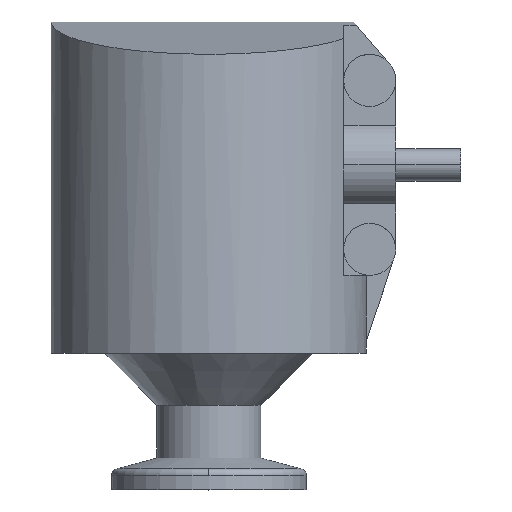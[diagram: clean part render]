
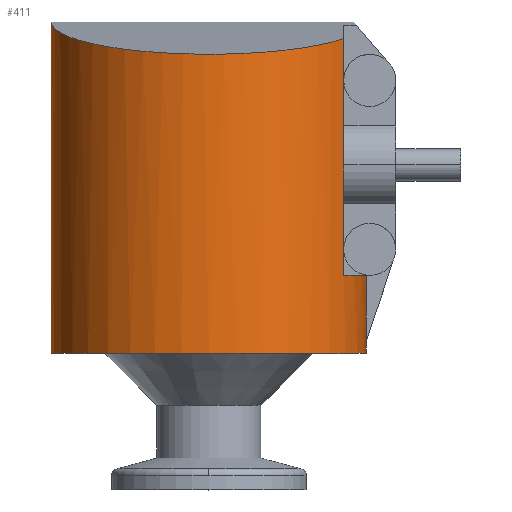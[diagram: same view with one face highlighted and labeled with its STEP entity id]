
A CAD part, top view. The second image highlights one B-rep face of the part: STEP entity #411.
In plain terms, the highlighted cylindrical face has radius 24.25 mm (diameter 48.5 mm), a partial arc.
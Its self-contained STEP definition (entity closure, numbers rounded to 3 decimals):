
#336=CARTESIAN_POINT('',(0.0,46.5,0.0));
#337=DIRECTION('',(0.0,1.0,0.0));
#338=DIRECTION('',(-1.0,0.0,0.0));
#339=AXIS2_PLACEMENT_3D('',#336,#337,#338);
#340=CYLINDRICAL_SURFACE('',#339,24.25);
#341=CARTESIAN_POINT('',(-24.25,21.,0.0));
#342=VERTEX_POINT('',#341);
#343=CARTESIAN_POINT('',(-24.25,72.,0.0));
#344=VERTEX_POINT('',#343);
#345=CARTESIAN_POINT('',(-24.25,21.,0.0));
#346=DIRECTION('',(0.0,1.0,0.0));
#347=VECTOR('',#346,51.);
#348=LINE('',#345,#347);
#349=EDGE_CURVE('',#342,#344,#348,.T.);
#350=ORIENTED_EDGE('',*,*,#349,.F.);
#351=CARTESIAN_POINT('',(24.25,21.,0.));
#352=VERTEX_POINT('',#351);
#353=CARTESIAN_POINT('',(0.0,21.0,0.0));
#354=DIRECTION('',(0.0,1.0,0.0));
#355=DIRECTION('',(-1.0,0.0,0.0));
#356=AXIS2_PLACEMENT_3D('',#353,#354,#355);
#357=CIRCLE('',#356,24.25);
#358=EDGE_CURVE('',#342,#352,#357,.T.);
#359=ORIENTED_EDGE('',*,*,#358,.T.);
#360=CARTESIAN_POINT('',(24.25,23.,0.0));
#361=VERTEX_POINT('',#360);
#362=CARTESIAN_POINT('',(24.25,23.,0.0));
#363=DIRECTION('',(0.0,-1.0,0.0));
#364=VECTOR('',#363,2.);
#365=LINE('',#362,#364);
#366=EDGE_CURVE('',#361,#352,#365,.T.);
#367=ORIENTED_EDGE('',*,*,#366,.F.);
#368=CARTESIAN_POINT('',(24.25,33.0,0.0));
#369=VERTEX_POINT('',#368);
#370=CARTESIAN_POINT('',(24.25,23.,0.0));
#371=DIRECTION('',(0.0,1.0,0.0));
#372=VECTOR('',#371,10.);
#373=LINE('',#370,#372);
#374=EDGE_CURVE('',#361,#369,#373,.T.);
#375=ORIENTED_EDGE('',*,*,#374,.T.);
#376=CARTESIAN_POINT('',(24.121,33.0,2.5));
#377=VERTEX_POINT('',#376);
#378=CARTESIAN_POINT('',(0.0,33.0,0.0));
#379=DIRECTION('',(0.0,-1.0,0.0));
#380=DIRECTION('',(-1.0,0.0,0.0));
#381=AXIS2_PLACEMENT_3D('',#378,#379,#380);
#382=CIRCLE('',#381,24.25);
#383=EDGE_CURVE('',#369,#377,#382,.T.);
#384=ORIENTED_EDGE('',*,*,#383,.T.);
#385=CARTESIAN_POINT('',(20.75,33.0,12.55));
#386=VERTEX_POINT('',#385);
#387=CARTESIAN_POINT('',(0.0,33.0,0.0));
#388=DIRECTION('',(0.0,-1.0,0.0));
#389=DIRECTION('',(-1.0,0.0,0.0));
#390=AXIS2_PLACEMENT_3D('',#387,#388,#389);
#391=CIRCLE('',#390,24.25);
#392=EDGE_CURVE('',#377,#386,#391,.T.);
#393=ORIENTED_EDGE('',*,*,#392,.T.);
#394=CARTESIAN_POINT('',(20.75,69.412,12.55));
#395=VERTEX_POINT('',#394);
#396=CARTESIAN_POINT('',(20.75,33.0,12.55));
#397=DIRECTION('',(0.0,1.0,0.0));
#398=VECTOR('',#397,36.412);
#399=LINE('',#396,#398);
#400=EDGE_CURVE('',#386,#395,#399,.T.);
#401=ORIENTED_EDGE('',*,*,#400,.T.);
#402=CARTESIAN_POINT('',(0.0,72.,0.0));
#403=DIRECTION('',(0.0,-0.979,-0.202));
#404=DIRECTION('',(0.0,-0.202,0.979));
#405=AXIS2_PLACEMENT_3D('',#402,#403,#404);
#406=ELLIPSE('',#405,24.76,24.25);
#407=EDGE_CURVE('',#395,#344,#406,.T.);
#408=ORIENTED_EDGE('',*,*,#407,.T.);
#409=EDGE_LOOP('',(#350,#359,#367,#375,#384,#393,#401,#408));
#410=FACE_OUTER_BOUND('',#409,.T.);
#411=ADVANCED_FACE('',(#410),#340,.T.);
